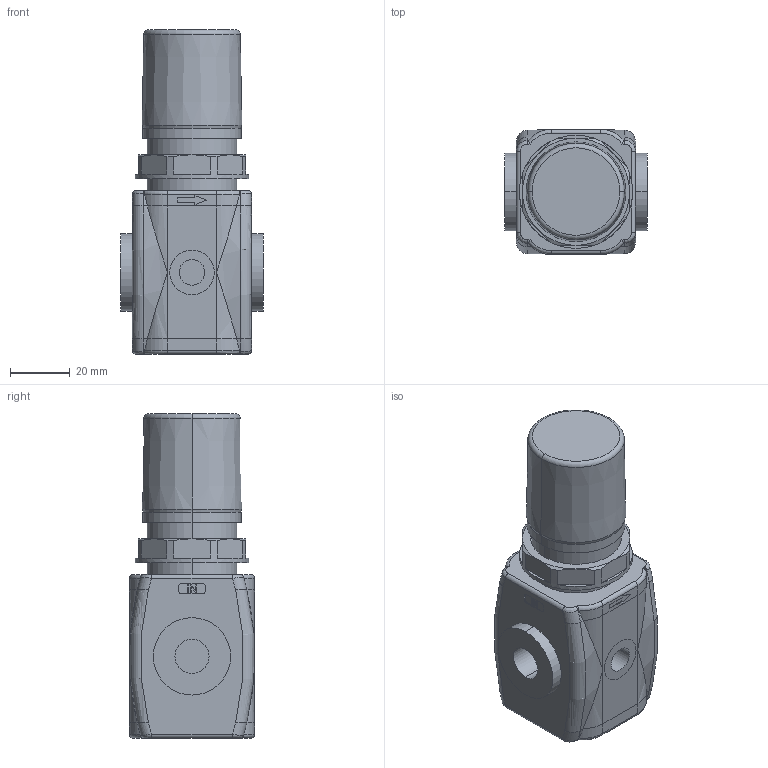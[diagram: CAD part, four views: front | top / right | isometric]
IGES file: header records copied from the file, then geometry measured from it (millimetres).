
Global section: file name: No Iges File Name specified; native system: Autodesk Inventor 2010; preprocessor: AutoDesk Inventor Iges Exporter R2010; author: valotma1; date: 20100823.141821; units: millimetre
Bounding box: 48 x 42 x 109 mm (x, y, z)
Volume: 136807.9 mm3; surface area: 23367.5 mm2
Topology: 2 solids, 2 shells, 311 faces, 742 edges, 472 vertices
Faces by surface type: plane 130, bspline 63, cylinder 54, revolution 32, torus 22, cone 10
